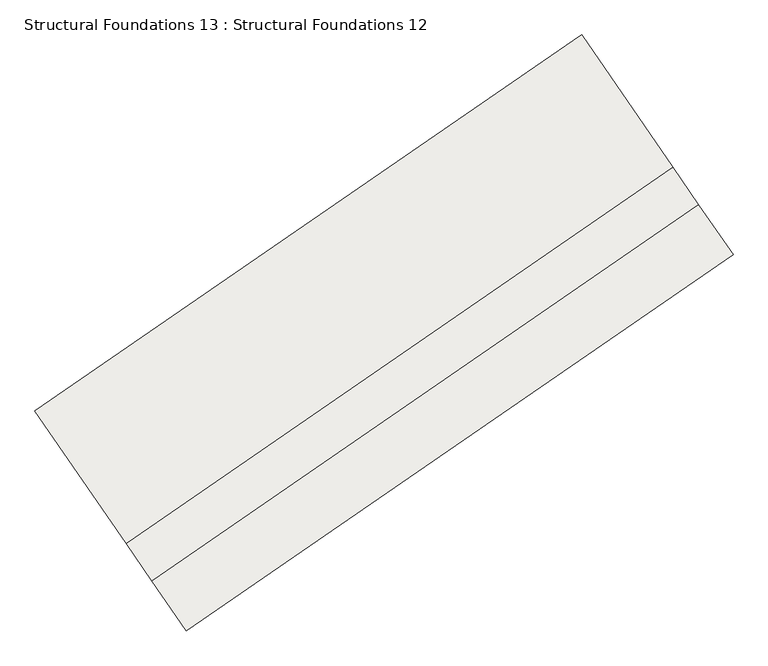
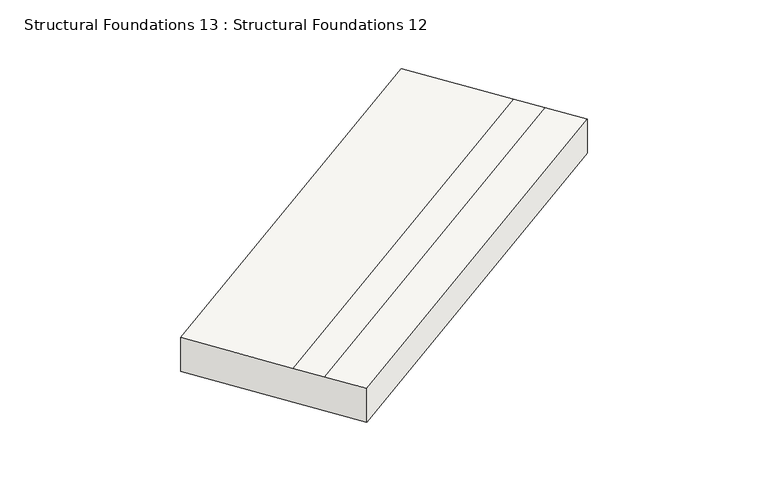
"""IFC4 building model written with IfcOpenShell, lengths in millimetres: slab geometry, Structural Foundations 13 : Structural Foundations 12."""

from ifc_helpers import new_model, si_unit, origin, place, context, project, spatial, faceted_brep, source, transform, mapped, element, save


def structural_foundations_13_structural_foundations_12_77cfd8ab(model_context):
    return source(origin(), model_context, "Body", "Brep", [
        faceted_brep([(-333458.4888558, -430806.8204971, 633962.0), (-333458.4888558, -430806.8204971, 634662.0), (-332264.3887478, -432540.3573251, 634661.9999997), (-331926.864015, -433030.3594203, 634661.9999996), (-331473.0492468, -433689.1857688, 634661.9999995), (-331473.0492468, -433689.1857688, 633961.9999995), (-340623.2253881, -435742.0560965, 633889.0000005), (-338637.7857792, -438624.4213682, 633889.0), (-338637.7857792, -438624.4213682, 634589.0), (-339091.6005474, -437965.5950197, 634589.0000001), (-339429.1252802, -437475.5929245, 634589.0000002), (-340623.2253881, -435742.0560965, 634589.0000005)], [[[0, 1, 2, 3, 4, 5]], [[6, 7, 8, 9, 10, 11]], [[6, 11, 1, 0]], [[11, 10, 2, 1]], [[10, 9, 3, 2]], [[9, 8, 4, 3]], [[8, 7, 5, 4]], [[7, 6, 0, 5]]]),
    ])


if __name__ == "__main__":
    model = new_model("IFC4")
    model_context = context("Model", 3, world=origin())
    ifc_project = project(units=[si_unit("LENGTHUNIT", "METRE", prefix="MILLI")], contexts=[model_context])
    site = spatial("IfcSite", under=ifc_project)
    building = spatial("IfcBuilding", under=site)
    placement = place(None, origin())
    structural_foundations_13_structural_foundations_12_shape = structural_foundations_13_structural_foundations_12_77cfd8ab(model_context)
    element("IfcSlab", 1, ObjectType="Structural Foundations 13 : Structural Foundations 12", at=placement, inside=building, context=model_context, shape_type="MappedRepresentation", body=[
        mapped(structural_foundations_13_structural_foundations_12_shape, transform((0.0, 0.0, 0.0), x_axis=(1.0, 0.0, 0.0), y_axis=(0.0, 1.0, 0.0), z_axis=(0.0, 0.0, 1.0))),
    ])
    save(model, "model.ifc")
